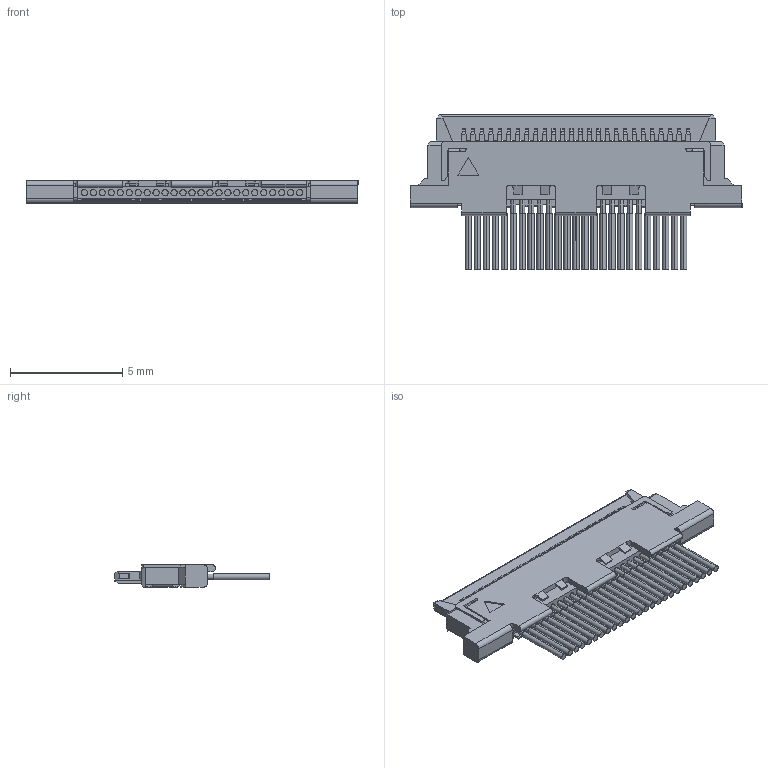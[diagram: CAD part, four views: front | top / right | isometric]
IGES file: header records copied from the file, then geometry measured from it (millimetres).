
Start section: SolidWorks IGES file using analytic representation for surfaces
Global section: file name: C:\Documents and Settings\kaihatsu-3dcad-4\デスクトップ\120307 CAB V IGES 作成\25P\IGES\20345-025Txx2C PLUG CABLE ASS'Y IGES R10 ALL.IGS; native system: SolidWorks 2011; preprocessor: SolidWorks 2011; author: kaihatsu-3dcad-4; date: 120308.094409; units: millimetre
Bounding box: 14.8 x 6.9 x 1 mm (x, y, z)
Surface area: 235.7 mm2 (no closed solid volume)
Topology: 0 solids, 0 shells, 1116 faces, 7851 edges, 7832 vertices
Faces by surface type: bspline 889, revolution 227
